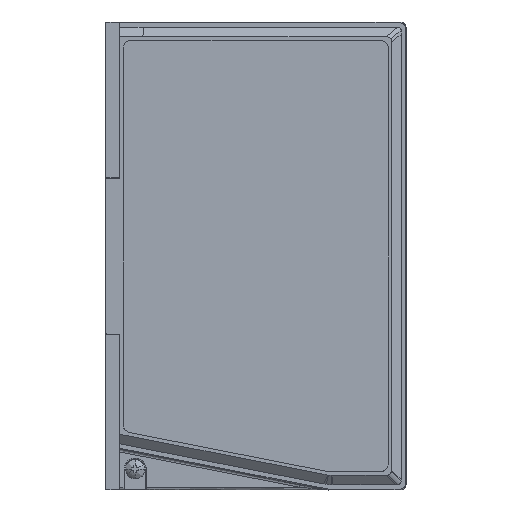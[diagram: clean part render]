
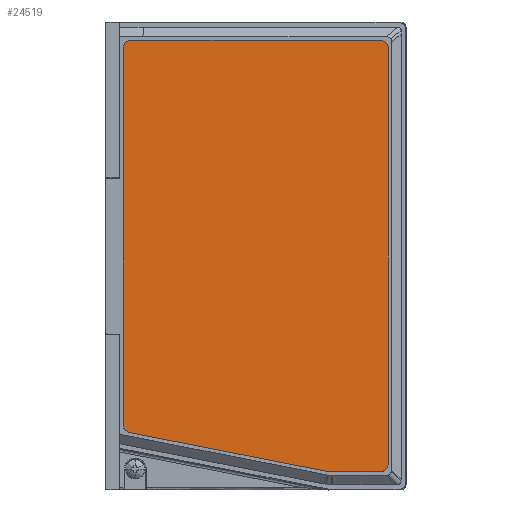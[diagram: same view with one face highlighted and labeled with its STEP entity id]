
A CAD part, left-side view. The second image highlights one B-rep face of the part: STEP entity #24519.
In plain terms, the highlighted planar face has unit normal (-1, 0, 0).
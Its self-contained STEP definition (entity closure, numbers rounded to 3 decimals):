
#3407=(
BOUNDED_CURVE()
B_SPLINE_CURVE(2,(#238075,#238076,#238077),.UNSPECIFIED.,.F.,.F.)
B_SPLINE_CURVE_WITH_KNOTS((3,3),(0.,3.927),.UNSPECIFIED.)
CURVE()
GEOMETRIC_REPRESENTATION_ITEM()
RATIONAL_B_SPLINE_CURVE((1.,0.707,1.))
REPRESENTATION_ITEM('')
);
#3408=(
BOUNDED_CURVE()
B_SPLINE_CURVE(2,(#238080,#238081,#238082),.UNSPECIFIED.,.F.,.F.)
B_SPLINE_CURVE_WITH_KNOTS((3,3),(0.,0.155),.UNSPECIFIED.)
CURVE()
GEOMETRIC_REPRESENTATION_ITEM()
RATIONAL_B_SPLINE_CURVE((1.,0.995,1.))
REPRESENTATION_ITEM('')
);
#3409=(
BOUNDED_CURVE()
B_SPLINE_CURVE(2,(#238087,#238088,#238089),.UNSPECIFIED.,.F.,.F.)
B_SPLINE_CURVE_WITH_KNOTS((3,3),(0.,3.927),.UNSPECIFIED.)
CURVE()
GEOMETRIC_REPRESENTATION_ITEM()
RATIONAL_B_SPLINE_CURVE((1.,0.707,1.))
REPRESENTATION_ITEM('')
);
#3410=(
BOUNDED_CURVE()
B_SPLINE_CURVE(2,(#238092,#238093,#238094),.UNSPECIFIED.,.F.,.F.)
B_SPLINE_CURVE_WITH_KNOTS((3,3),(0.,3.927),.UNSPECIFIED.)
CURVE()
GEOMETRIC_REPRESENTATION_ITEM()
RATIONAL_B_SPLINE_CURVE((1.,0.707,1.))
REPRESENTATION_ITEM('')
);
#3411=(
BOUNDED_CURVE()
B_SPLINE_CURVE(2,(#238095,#238096,#238097),.UNSPECIFIED.,.F.,.F.)
B_SPLINE_CURVE_WITH_KNOTS((3,3),(0.,3.443),.UNSPECIFIED.)
CURVE()
GEOMETRIC_REPRESENTATION_ITEM()
RATIONAL_B_SPLINE_CURVE((1.,0.772,1.))
REPRESENTATION_ITEM('')
);
#7029=PLANE('',#133322);
#24519=ADVANCED_FACE('',(#28929),#7029,.T.);
#28929=FACE_OUTER_BOUND('',#33555,.T.);
#33555=EDGE_LOOP('',(#55716,#55717,#55718,#55719,#55720,#55721,#55722,#55723,
#55724,#55725));
#55716=ORIENTED_EDGE('',*,*,#80373,.T.);
#55717=ORIENTED_EDGE('',*,*,#80368,.F.);
#55718=ORIENTED_EDGE('',*,*,#80367,.T.);
#55719=ORIENTED_EDGE('',*,*,#80366,.F.);
#55720=ORIENTED_EDGE('',*,*,#80365,.T.);
#55721=ORIENTED_EDGE('',*,*,#80364,.F.);
#55722=ORIENTED_EDGE('',*,*,#80372,.T.);
#55723=ORIENTED_EDGE('',*,*,#80371,.F.);
#55724=ORIENTED_EDGE('',*,*,#80370,.T.);
#55725=ORIENTED_EDGE('',*,*,#80369,.F.);
#80364=EDGE_CURVE('',#126892,#126893,#102630,.T.);
#80365=EDGE_CURVE('',#126894,#126893,#3407,.T.);
#80366=EDGE_CURVE('',#126894,#126895,#102631,.T.);
#80367=EDGE_CURVE('',#126896,#126895,#3408,.T.);
#80368=EDGE_CURVE('',#126896,#126897,#102632,.T.);
#80369=EDGE_CURVE('',#126898,#126899,#102633,.T.);
#80370=EDGE_CURVE('',#126900,#126899,#3409,.T.);
#80371=EDGE_CURVE('',#126900,#126901,#102634,.T.);
#80372=EDGE_CURVE('',#126892,#126901,#3410,.T.);
#80373=EDGE_CURVE('',#126898,#126897,#3411,.T.);
#102630=B_SPLINE_CURVE_WITH_KNOTS('',1,(#238073,#238074),.UNSPECIFIED.,
 .F.,.F.,(2,2),(0.,119.6),.UNSPECIFIED.);
#102631=B_SPLINE_CURVE_WITH_KNOTS('',1,(#238078,#238079),.UNSPECIFIED.,
 .F.,.F.,(2,2),(0.,14.217),.UNSPECIFIED.);
#102632=B_SPLINE_CURVE_WITH_KNOTS('',1,(#238083,#238084),.UNSPECIFIED.,
 .F.,.F.,(2,2),(0.,58.709),.UNSPECIFIED.);
#102633=B_SPLINE_CURVE_WITH_KNOTS('',1,(#238085,#238086),.UNSPECIFIED.,
 .F.,.F.,(2,2),(0.,108.329),.UNSPECIFIED.);
#102634=B_SPLINE_CURVE_WITH_KNOTS('',1,(#238090,#238091),.UNSPECIFIED.,
 .F.,.F.,(2,2),(0.,71.5),.UNSPECIFIED.);
#126892=VERTEX_POINT('',#238063);
#126893=VERTEX_POINT('',#238064);
#126894=VERTEX_POINT('',#238065);
#126895=VERTEX_POINT('',#238066);
#126896=VERTEX_POINT('',#238067);
#126897=VERTEX_POINT('',#238068);
#126898=VERTEX_POINT('',#238069);
#126899=VERTEX_POINT('',#238070);
#126900=VERTEX_POINT('',#238071);
#126901=VERTEX_POINT('',#238072);
#133322=AXIS2_PLACEMENT_3D('',#238062,#136913,$);
#136913=DIRECTION('',(-1.,0.,0.));
#238062=CARTESIAN_POINT('',(348.858,-231.409,453.694));
#238063=CARTESIAN_POINT('',(348.858,-315.619,588.314));
#238064=CARTESIAN_POINT('',(348.858,-315.619,468.714));
#238065=CARTESIAN_POINT('',(348.858,-313.119,466.214));
#238066=CARTESIAN_POINT('',(348.858,-298.902,466.214));
#238067=CARTESIAN_POINT('',(348.858,-298.748,466.229));
#238068=CARTESIAN_POINT('',(348.858,-241.138,477.531));
#238069=CARTESIAN_POINT('',(348.858,-239.119,479.985));
#238070=CARTESIAN_POINT('',(348.858,-239.119,588.314));
#238071=CARTESIAN_POINT('',(348.858,-241.619,590.814));
#238072=CARTESIAN_POINT('',(348.858,-313.119,590.814));
#238073=CARTESIAN_POINT('',(348.858,-315.619,588.314));
#238074=CARTESIAN_POINT('',(348.858,-315.619,468.714));
#238075=CARTESIAN_POINT('',(348.858,-313.119,466.214));
#238076=CARTESIAN_POINT('',(348.858,-315.619,466.214));
#238077=CARTESIAN_POINT('',(348.858,-315.619,468.714));
#238078=CARTESIAN_POINT('',(348.858,-313.119,466.214));
#238079=CARTESIAN_POINT('',(348.858,-298.902,466.214));
#238080=CARTESIAN_POINT('',(348.858,-298.748,466.229));
#238081=CARTESIAN_POINT('',(348.858,-298.824,466.214));
#238082=CARTESIAN_POINT('',(348.858,-298.902,466.214));
#238083=CARTESIAN_POINT('',(348.858,-298.748,466.229));
#238084=CARTESIAN_POINT('',(348.858,-241.138,477.531));
#238085=CARTESIAN_POINT('',(348.858,-239.119,479.985));
#238086=CARTESIAN_POINT('',(348.858,-239.119,588.314));
#238087=CARTESIAN_POINT('',(348.858,-241.619,590.814));
#238088=CARTESIAN_POINT('',(348.858,-239.119,590.814));
#238089=CARTESIAN_POINT('',(348.858,-239.119,588.314));
#238090=CARTESIAN_POINT('',(348.858,-241.619,590.814));
#238091=CARTESIAN_POINT('',(348.858,-313.119,590.814));
#238092=CARTESIAN_POINT('',(348.858,-315.619,588.314));
#238093=CARTESIAN_POINT('',(348.858,-315.619,590.814));
#238094=CARTESIAN_POINT('',(348.858,-313.119,590.814));
#238095=CARTESIAN_POINT('',(348.858,-239.119,479.985));
#238096=CARTESIAN_POINT('',(348.858,-239.119,477.927));
#238097=CARTESIAN_POINT('',(348.858,-241.138,477.531));
